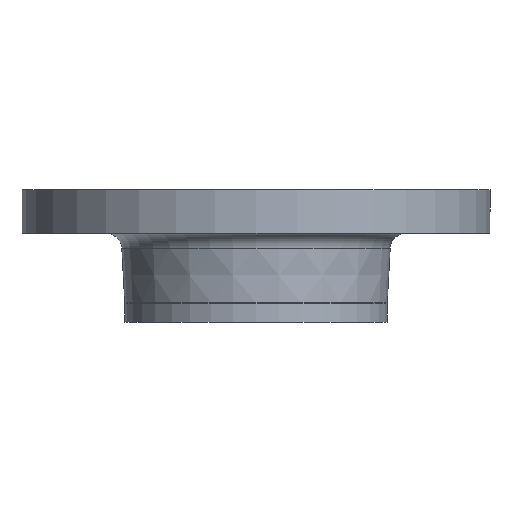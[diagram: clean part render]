
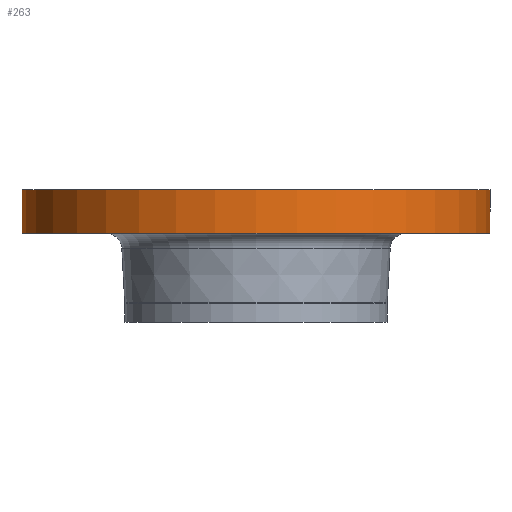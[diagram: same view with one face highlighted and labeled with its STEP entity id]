
A CAD part, front view. The second image highlights one B-rep face of the part: STEP entity #263.
In plain terms, the highlighted cylindrical face has radius 150 mm (diameter 300 mm), a partial arc.
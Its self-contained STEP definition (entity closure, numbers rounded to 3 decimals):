
#16 = EDGE_CURVE ( 'NONE', #888, #730, #479, .T. ) ;
#65 = DIRECTION ( 'NONE',  ( 1., 0., 0. ) ) ;
#117 = DIRECTION ( 'NONE',  ( 1., 0., 0. ) ) ;
#119 = DIRECTION ( 'NONE',  ( 0., 0., 1. ) ) ;
#120 = CARTESIAN_POINT ( 'NONE',  ( 0., 0., -28. ) ) ;
#121 = CARTESIAN_POINT ( 'NONE',  ( 150., 0., -28. ) ) ;
#126 = EDGE_CURVE ( 'NONE', #730, #719, #674, .T. ) ;
#139 = EDGE_CURVE ( 'NONE', #914, #719, #578, .T. ) ;
#140 = CARTESIAN_POINT ( 'NONE',  ( -150., 0., -28. ) ) ;
#224 = CARTESIAN_POINT ( 'NONE',  ( -150., 0., 0. ) ) ;
#231 = CARTESIAN_POINT ( 'NONE',  ( 150., 0., 0. ) ) ;
#263 = ADVANCED_FACE ( 'NONE', ( #443 ), #430, .T. ) ;
#307 = VECTOR ( 'NONE', #580, 1000. ) ;
#321 = AXIS2_PLACEMENT_3D ( 'NONE', #120, #119, #117 ) ;
#354 = AXIS2_PLACEMENT_3D ( 'NONE', #445, #434, #65 ) ;
#430 = CYLINDRICAL_SURFACE ( 'NONE', #354, 150. ) ;
#434 = DIRECTION ( 'NONE',  ( 0., 0., 1. ) ) ;
#443 = FACE_OUTER_BOUND ( 'NONE', #752, .T. ) ;
#445 = CARTESIAN_POINT ( 'NONE',  ( 0., 0., -85. ) ) ;
#457 = AXIS2_PLACEMENT_3D ( 'NONE', #574, #576, #577 ) ;
#463 = CIRCLE ( 'NONE', #321, 150. ) ;
#467 = VECTOR ( 'NONE', #481, 1000. ) ;
#479 = LINE ( 'NONE', #480, #467 ) ;
#480 = CARTESIAN_POINT ( 'NONE',  ( -150., 0., -85. ) ) ;
#481 = DIRECTION ( 'NONE',  ( 0., 0., 1. ) ) ;
#574 = CARTESIAN_POINT ( 'NONE',  ( 0., 0., 0. ) ) ;
#576 = DIRECTION ( 'NONE',  ( 0., 0., 1. ) ) ;
#577 = DIRECTION ( 'NONE',  ( 1., 0., 0. ) ) ;
#578 = LINE ( 'NONE', #579, #307 ) ;
#579 = CARTESIAN_POINT ( 'NONE',  ( 150., 0., -85. ) ) ;
#580 = DIRECTION ( 'NONE',  ( 0., 0., 1. ) ) ;
#674 = CIRCLE ( 'NONE', #457, 150. ) ;
#719 = VERTEX_POINT ( 'NONE', #231 ) ;
#730 = VERTEX_POINT ( 'NONE', #224 ) ;
#752 = EDGE_LOOP ( 'NONE', ( #838, #839, #840, #842 ) ) ;
#838 = ORIENTED_EDGE ( 'NONE', *, *, #16, .F. ) ;
#839 = ORIENTED_EDGE ( 'NONE', *, *, #920, .T. ) ;
#840 = ORIENTED_EDGE ( 'NONE', *, *, #139, .T. ) ;
#842 = ORIENTED_EDGE ( 'NONE', *, *, #126, .F. ) ;
#888 = VERTEX_POINT ( 'NONE', #140 ) ;
#914 = VERTEX_POINT ( 'NONE', #121 ) ;
#920 = EDGE_CURVE ( 'NONE', #888, #914, #463, .T. ) ;
